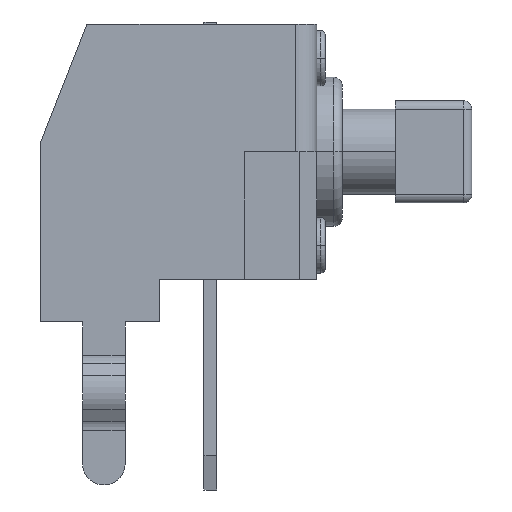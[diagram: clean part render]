
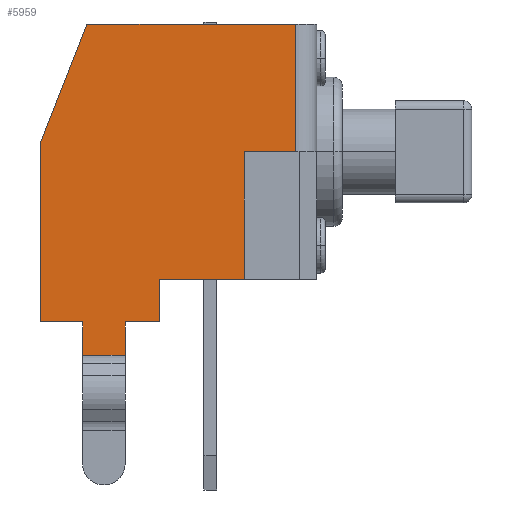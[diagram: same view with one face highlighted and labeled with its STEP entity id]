
A CAD part, left-side view. The second image highlights one B-rep face of the part: STEP entity #5959.
In plain terms, the highlighted planar face has unit normal (-1, 0, 0).
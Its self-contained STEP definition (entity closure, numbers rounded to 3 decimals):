
#4584=DIRECTION('',(0.,0.,1.));
#4585=VECTOR('',#4584,3.);
#4586=CARTESIAN_POINT('',(-3.7,0.1,0.));
#4587=LINE('',#4586,#4585);
#4597=DIRECTION('',(0.,0.,1.));
#4598=VECTOR('',#4597,3.);
#4599=CARTESIAN_POINT('',(-3.7,1.3,-3.));
#4600=LINE('',#4599,#4598);
#4601=DIRECTION('',(0.,-1.,0.));
#4602=VECTOR('',#4601,2.);
#4603=CARTESIAN_POINT('',(-3.7,3.3,-3.));
#4604=LINE('',#4603,#4602);
#4605=DIRECTION('',(0.,0.,1.));
#4606=VECTOR('',#4605,1.);
#4607=CARTESIAN_POINT('',(-3.7,3.3,-4.));
#4608=LINE('',#4607,#4606);
#4609=DIRECTION('',(0.,-1.,0.));
#4610=VECTOR('',#4609,0.8);
#4611=CARTESIAN_POINT('',(-3.7,4.1,-4.));
#4612=LINE('',#4611,#4610);
#4613=DIRECTION('',(0.,0.,1.));
#4614=VECTOR('',#4613,0.786);
#4615=CARTESIAN_POINT('',(-3.7,4.1,-4.786));
#4616=LINE('',#4615,#4614);
#4617=DIRECTION('',(0.,0.,-1.));
#4618=VECTOR('',#4617,0.786);
#4619=CARTESIAN_POINT('',(-3.7,5.1,-4.));
#4620=LINE('',#4619,#4618);
#4621=DIRECTION('',(0.,-1.,0.));
#4622=VECTOR('',#4621,1.);
#4623=CARTESIAN_POINT('',(-3.7,6.1,-4.));
#4624=LINE('',#4623,#4622);
#4625=DIRECTION('',(0.,0.366,-0.931));
#4626=VECTOR('',#4625,3.008);
#4627=CARTESIAN_POINT('',(-3.7,5.,3.));
#4628=LINE('',#4627,#4626);
#4629=DIRECTION('',(0.,1.,0.));
#4630=VECTOR('',#4629,4.9);
#4631=CARTESIAN_POINT('',(-3.7,0.1,3.));
#4632=LINE('',#4631,#4630);
#4633=DIRECTION('',(0.,1.,0.));
#4634=VECTOR('',#4633,1.2);
#4635=CARTESIAN_POINT('',(-3.7,0.1,0.));
#4636=LINE('',#4635,#4634);
#4693=DIRECTION('',(0.,0.,-1.));
#4694=VECTOR('',#4693,4.2);
#4695=CARTESIAN_POINT('',(-3.7,6.1,0.2));
#4696=LINE('',#4695,#4694);
#4914=DIRECTION('',(0.,-1.,0.));
#4915=VECTOR('',#4914,1.);
#4916=CARTESIAN_POINT('',(-3.7,5.1,-4.786));
#4917=LINE('',#4916,#4915);
#5389=CARTESIAN_POINT('',(-3.7,0.1,3.));
#5391=VERTEX_POINT('',#5389);
#5397=CARTESIAN_POINT('',(-3.7,3.3,-4.));
#5398=CARTESIAN_POINT('',(-3.7,3.3,-3.));
#5399=VERTEX_POINT('',#5397);
#5400=VERTEX_POINT('',#5398);
#5405=CARTESIAN_POINT('',(-3.7,6.1,-4.));
#5407=VERTEX_POINT('',#5405);
#5409=CARTESIAN_POINT('',(-3.7,5.1,-4.));
#5411=VERTEX_POINT('',#5409);
#5413=CARTESIAN_POINT('',(-3.7,4.1,-4.));
#5415=VERTEX_POINT('',#5413);
#5417=CARTESIAN_POINT('',(-3.7,5.1,-4.786));
#5418=VERTEX_POINT('',#5417);
#5419=CARTESIAN_POINT('',(-3.7,4.1,-4.786));
#5420=VERTEX_POINT('',#5419);
#5549=CARTESIAN_POINT('',(-3.7,5.,3.));
#5550=CARTESIAN_POINT('',(-3.7,6.1,0.2));
#5551=VERTEX_POINT('',#5549);
#5552=VERTEX_POINT('',#5550);
#5585=CARTESIAN_POINT('',(-3.7,1.3,-3.));
#5586=CARTESIAN_POINT('',(-3.7,1.3,0.));
#5587=VERTEX_POINT('',#5585);
#5588=VERTEX_POINT('',#5586);
#5589=CARTESIAN_POINT('',(-3.7,0.1,0.));
#5590=VERTEX_POINT('',#5589);
#5927=CARTESIAN_POINT('',(-3.7,-0.4,3.));
#5928=DIRECTION('',(-1.,0.,0.));
#5929=DIRECTION('',(0.,0.,1.));
#5930=AXIS2_PLACEMENT_3D('',#5927,#5928,#5929);
#5931=PLANE('',#5930);
#5933=ORIENTED_EDGE('',*,*,#5932,.F.);
#5935=ORIENTED_EDGE('',*,*,#5934,.F.);
#5937=ORIENTED_EDGE('',*,*,#5936,.F.);
#5939=ORIENTED_EDGE('',*,*,#5938,.F.);
#5941=ORIENTED_EDGE('',*,*,#5940,.F.);
#5943=ORIENTED_EDGE('',*,*,#5942,.F.);
#5945=ORIENTED_EDGE('',*,*,#5944,.F.);
#5947=ORIENTED_EDGE('',*,*,#5946,.F.);
#5949=ORIENTED_EDGE('',*,*,#5948,.F.);
#5951=ORIENTED_EDGE('',*,*,#5950,.F.);
#5953=ORIENTED_EDGE('',*,*,#5952,.F.);
#5954=ORIENTED_EDGE('',*,*,#5920,.F.);
#5956=ORIENTED_EDGE('',*,*,#5955,.T.);
#5957=EDGE_LOOP('',(#5933,#5935,#5937,#5939,#5941,#5943,#5945,#5947,#5949,#5951,
#5953,#5954,#5956));
#5958=FACE_OUTER_BOUND('',#5957,.F.);
#5920=EDGE_CURVE('',#5590,#5391,#4587,.T.);
#5932=EDGE_CURVE('',#5587,#5588,#4600,.T.);
#5934=EDGE_CURVE('',#5400,#5587,#4604,.T.);
#5936=EDGE_CURVE('',#5399,#5400,#4608,.T.);
#5938=EDGE_CURVE('',#5415,#5399,#4612,.T.);
#5940=EDGE_CURVE('',#5420,#5415,#4616,.T.);
#5942=EDGE_CURVE('',#5418,#5420,#4917,.T.);
#5944=EDGE_CURVE('',#5411,#5418,#4620,.T.);
#5946=EDGE_CURVE('',#5407,#5411,#4624,.T.);
#5948=EDGE_CURVE('',#5552,#5407,#4696,.T.);
#5950=EDGE_CURVE('',#5551,#5552,#4628,.T.);
#5952=EDGE_CURVE('',#5391,#5551,#4632,.T.);
#5955=EDGE_CURVE('',#5590,#5588,#4636,.T.);
#5959=ADVANCED_FACE('',(#5958),#5931,.T.);
